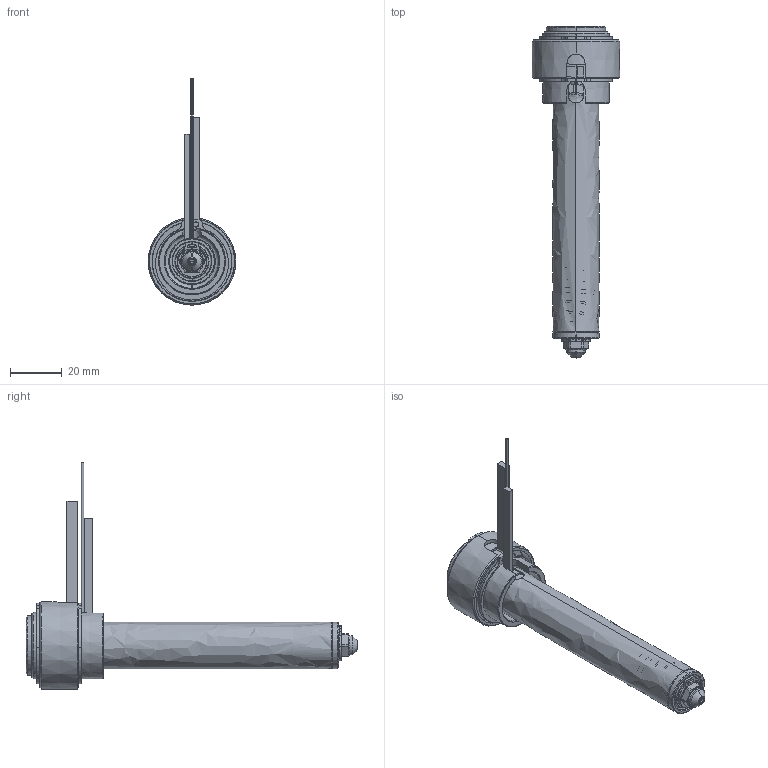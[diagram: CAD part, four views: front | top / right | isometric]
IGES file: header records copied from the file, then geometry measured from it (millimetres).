
Start section: SolidWorks IGES file using analytic representation for surfaces
Global section: file name: C:\Documents and Settings\ws-20\Desktop\TEM\UGER2504-M-A-0 [Øb-1.90 ØC-5.0].IGS; native system: SolidWorks 2012; preprocessor: SolidWorks 2012; author: ws-20; date: 120405.105350; units: millimetre
Bounding box: 34 x 128.9 x 87.9 mm (x, y, z)
Surface area: 21451.6 mm2 (no closed solid volume)
Topology: 0 solids, 0 shells, 188 faces, 2495 edges, 2493 vertices
Faces by surface type: revolution 118, bspline 70
